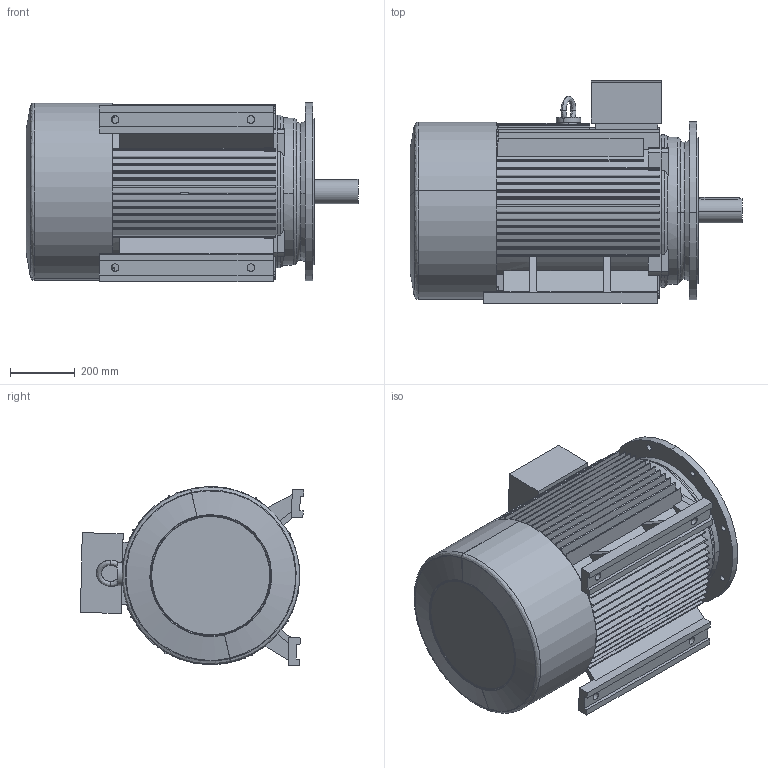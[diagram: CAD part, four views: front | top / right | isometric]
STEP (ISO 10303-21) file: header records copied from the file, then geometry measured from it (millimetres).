
FILE_DESCRIPTION (( 'STEP AP203' ), '1' );
FILE_NAME ('M3-280M-4p-FF-B35.STEP', '2019-07-16T09:35:19', ( '' ), ( '' ), 'SwSTEP 2.0', 'SolidWorks 2012', '' );
FILE_SCHEMA (( 'CONFIG_CONTROL_DESIGN' ));
Length unit declared in the file: millimetre
Products named in the file (8): M3-280M-4p-FF-B35; Ã¦Íß¦ð-Ô©ÃY2-280-4_-¼+¤; Y2-280S.M-4.6.8ﾍﾟ_-ｼ+､; 280ﾁｧ+ﾀ_-ｼ+､; Y2-280M+ｷﾎｨB3_-ｼ+､; Y2-280-4.6.8ﾀiﾍ_-ｼ+､; Y2-280ｦｾﾂ-ｩﾃ_-ｼ+､; Y2-280-4-ｦﾈﾁﾂ-ｩﾃ_-ｼ+､
Assembly tree (7 placements, depth 2):
  M3-280M-4p-FF-B35
    Y2-280ｦｾﾂ-ｩﾃ_-ｼ+､
    Y2-280-4-ｦﾈﾁﾂ-ｩﾃ_-ｼ+､
    Y2-280-4.6.8ﾀiﾍ_-ｼ+､
    280ﾁｧ+ﾀ_-ｼ+､
    Y2-280M+ｷﾎｨB3_-ｼ+､
    Y2-280S.M-4.6.8ﾍﾟ_-ｼ+､
    Ã¦Íß¦ð-Ô©ÃY2-280-4_-¼+¤
Bounding box: 1023.53 x 687.92 x 552.33 mm (x, y, z)
Volume: 40196020.3 mm3; surface area: 7438402.2 mm2
Topology: 7 solids, 7 shells, 811 faces, 2164 edges, 1431 vertices
Faces by surface type: plane 453, cylinder 299, cone 33, bspline 26
Entity records: 28157 total; most frequent: CARTESIAN_POINT 6369, DIRECTION 4465, ORIENTED_EDGE 4328, EDGE_CURVE 2164, AXIS2_PLACEMENT_3D 1591, VERTEX_POINT 1431, VECTOR 1283, LINE 1283
